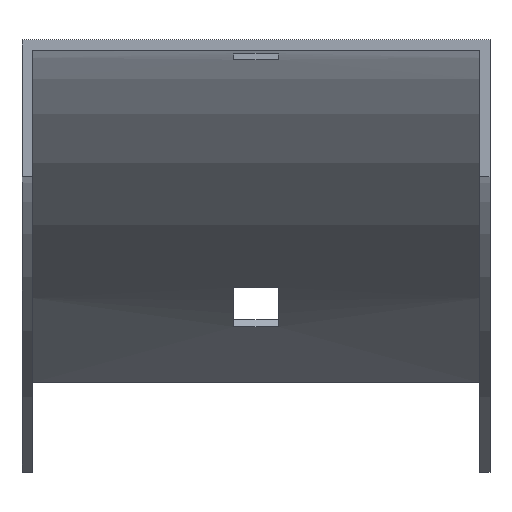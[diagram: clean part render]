
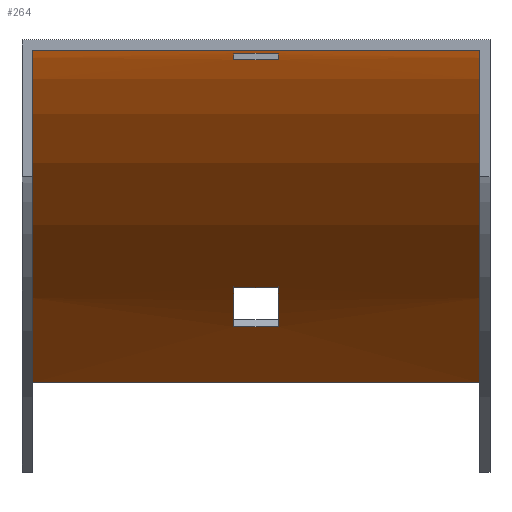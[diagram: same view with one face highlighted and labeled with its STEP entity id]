
A CAD part, top view. The second image highlights one B-rep face of the part: STEP entity #264.
In plain terms, the highlighted cylindrical face has radius 165.5 mm (diameter 331 mm), a partial arc.
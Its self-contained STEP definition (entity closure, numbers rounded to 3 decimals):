
#8 = CARTESIAN_POINT ( 'NONE',  ( -3.25, -167., 0. ) ) ;
#11 = CIRCLE ( 'NONE', #427, 165.5 ) ;
#27 = ORIENTED_EDGE ( 'NONE', *, *, #143, .F. ) ;
#38 = ORIENTED_EDGE ( 'NONE', *, *, #434, .T. ) ;
#51 = DIRECTION ( 'NONE',  ( -1., 0., 0. ) ) ;
#52 = CARTESIAN_POINT ( 'NONE',  ( -3.25, -41.797, -108.233 ) ) ;
#53 = CARTESIAN_POINT ( 'NONE',  ( 3.25, -41.797, -108.233 ) ) ;
#55 = EDGE_CURVE ( 'NONE', #141, #175, #67, .T. ) ;
#64 = CARTESIAN_POINT ( 'NONE',  ( -32.75, -167., 0. ) ) ;
#66 = EDGE_LOOP ( 'NONE', ( #27, #92, #38, #250 ) ) ;
#67 = CIRCLE ( 'NONE', #221, 165.5 ) ;
#78 = LINE ( 'NONE', #355, #91 ) ;
#79 = ORIENTED_EDGE ( 'NONE', *, *, #425, .T. ) ;
#80 = DIRECTION ( 'NONE',  ( -1., 0., 0. ) ) ;
#86 = EDGE_LOOP ( 'NONE', ( #531, #246, #321, #217 ) ) ;
#91 = VECTOR ( 'NONE', #455, 1000. ) ;
#92 = ORIENTED_EDGE ( 'NONE', *, *, #595, .F. ) ;
#94 = VECTOR ( 'NONE', #307, 1000. ) ;
#95 = EDGE_CURVE ( 'NONE', #544, #228, #301, .T. ) ;
#96 = CARTESIAN_POINT ( 'NONE',  ( -32.75, -1.5, 0. ) ) ;
#110 = DIRECTION ( 'NONE',  ( 0., 0., 1. ) ) ;
#114 = VERTEX_POINT ( 'NONE', #437 ) ;
#120 = CARTESIAN_POINT ( 'NONE',  ( -3.25, -1.936, -12. ) ) ;
#125 = LINE ( 'NONE', #365, #438 ) ;
#129 = CARTESIAN_POINT ( 'NONE',  ( -3.25, -167., 0. ) ) ;
#134 = CARTESIAN_POINT ( 'NONE',  ( 3.25, -36.071, -101.231 ) ) ;
#141 = VERTEX_POINT ( 'NONE', #422 ) ;
#142 = AXIS2_PLACEMENT_3D ( 'NONE', #509, #235, #227 ) ;
#143 = EDGE_CURVE ( 'NONE', #265, #419, #351, .T. ) ;
#151 = CARTESIAN_POINT ( 'NONE',  ( 3.25, -167., 0. ) ) ;
#163 = DIRECTION ( 'NONE',  ( 1., 0., 0. ) ) ;
#165 = DIRECTION ( 'NONE',  ( 1., 0., 0. ) ) ;
#173 = FACE_BOUND ( 'NONE', #341, .T. ) ;
#175 = VERTEX_POINT ( 'NONE', #347 ) ;
#179 = CARTESIAN_POINT ( 'NONE',  ( 34.25, -167., 0. ) ) ;
#186 = CARTESIAN_POINT ( 'NONE',  ( 3.25, -167., 0. ) ) ;
#188 = DIRECTION ( 'NONE',  ( 0., 0., 1. ) ) ;
#189 = DIRECTION ( 'NONE',  ( 1., 0., 0. ) ) ;
#200 = EDGE_CURVE ( 'NONE', #228, #141, #412, .T. ) ;
#213 = CARTESIAN_POINT ( 'NONE',  ( 34.25, -2.838, -21. ) ) ;
#217 = ORIENTED_EDGE ( 'NONE', *, *, #200, .F. ) ;
#221 = AXIS2_PLACEMENT_3D ( 'NONE', #151, #165, #484 ) ;
#227 = DIRECTION ( 'NONE',  ( 0., 0., 1. ) ) ;
#228 = VERTEX_POINT ( 'NONE', #553 ) ;
#235 = DIRECTION ( 'NONE',  ( 1., 0., 0. ) ) ;
#238 = VECTOR ( 'NONE', #80, 1000. ) ;
#246 = ORIENTED_EDGE ( 'NONE', *, *, #279, .F. ) ;
#250 = ORIENTED_EDGE ( 'NONE', *, *, #258, .T. ) ;
#252 = VERTEX_POINT ( 'NONE', #134 ) ;
#253 = CARTESIAN_POINT ( 'NONE',  ( -32.75, -49.974, -117.026 ) ) ;
#258 = EDGE_CURVE ( 'NONE', #506, #419, #402, .T. ) ;
#263 = DIRECTION ( 'NONE',  ( -1., 0., 0. ) ) ;
#264 = ADVANCED_FACE ( 'NONE', ( #409, #502, #173 ), #495, .F. ) ;
#265 = VERTEX_POINT ( 'NONE', #253 ) ;
#266 = CARTESIAN_POINT ( 'NONE',  ( 32.75, -1.5, 0. ) ) ;
#273 = EDGE_CURVE ( 'NONE', #361, #386, #499, .T. ) ;
#274 = VECTOR ( 'NONE', #303, 1000. ) ;
#276 = CARTESIAN_POINT ( 'NONE',  ( 34.25, -36.071, -101.231 ) ) ;
#279 = EDGE_CURVE ( 'NONE', #175, #544, #125, .T. ) ;
#282 = AXIS2_PLACEMENT_3D ( 'NONE', #8, #51, #481 ) ;
#290 = AXIS2_PLACEMENT_3D ( 'NONE', #179, #263, #309 ) ;
#297 = CIRCLE ( 'NONE', #142, 165.5 ) ;
#298 = CARTESIAN_POINT ( 'NONE',  ( 32.75, -1.5, 0. ) ) ;
#301 = CIRCLE ( 'NONE', #282, 165.5 ) ;
#303 = DIRECTION ( 'NONE',  ( 1., 0., 0. ) ) ;
#307 = DIRECTION ( 'NONE',  ( -1., 0., 0. ) ) ;
#309 = DIRECTION ( 'NONE',  ( 0., 0., 1. ) ) ;
#314 = DIRECTION ( 'NONE',  ( 0., 0., -1. ) ) ;
#321 = ORIENTED_EDGE ( 'NONE', *, *, #55, .F. ) ;
#322 = DIRECTION ( 'NONE',  ( -1., 0., 0. ) ) ;
#325 = ORIENTED_EDGE ( 'NONE', *, *, #442, .T. ) ;
#330 = VERTEX_POINT ( 'NONE', #466 ) ;
#341 = EDGE_LOOP ( 'NONE', ( #408, #364, #325, #79 ) ) ;
#347 = CARTESIAN_POINT ( 'NONE',  ( 3.25, -1.936, -12. ) ) ;
#351 = CIRCLE ( 'NONE', #604, 165.5 ) ;
#355 = CARTESIAN_POINT ( 'NONE',  ( 32.75, -49.974, -117.026 ) ) ;
#361 = VERTEX_POINT ( 'NONE', #53 ) ;
#364 = ORIENTED_EDGE ( 'NONE', *, *, #562, .T. ) ;
#365 = CARTESIAN_POINT ( 'NONE',  ( 34.25, -1.936, -12. ) ) ;
#386 = VERTEX_POINT ( 'NONE', #52 ) ;
#400 = CIRCLE ( 'NONE', #550, 165.5 ) ;
#402 = LINE ( 'NONE', #266, #94 ) ;
#408 = ORIENTED_EDGE ( 'NONE', *, *, #273, .T. ) ;
#409 = FACE_BOUND ( 'NONE', #86, .T. ) ;
#412 = LINE ( 'NONE', #213, #274 ) ;
#419 = VERTEX_POINT ( 'NONE', #96 ) ;
#422 = CARTESIAN_POINT ( 'NONE',  ( 3.25, -2.838, -21. ) ) ;
#425 = EDGE_CURVE ( 'NONE', #252, #361, #400, .T. ) ;
#427 = AXIS2_PLACEMENT_3D ( 'NONE', #129, #163, #314 ) ;
#434 = EDGE_CURVE ( 'NONE', #114, #506, #297, .T. ) ;
#437 = CARTESIAN_POINT ( 'NONE',  ( 32.75, -49.974, -117.026 ) ) ;
#438 = VECTOR ( 'NONE', #444, 1000. ) ;
#442 = EDGE_CURVE ( 'NONE', #330, #252, #565, .T. ) ;
#444 = DIRECTION ( 'NONE',  ( -1., 0., 0. ) ) ;
#452 = CARTESIAN_POINT ( 'NONE',  ( 34.25, -41.797, -108.233 ) ) ;
#454 = VECTOR ( 'NONE', #570, 1000. ) ;
#455 = DIRECTION ( 'NONE',  ( -1., 0., 0. ) ) ;
#466 = CARTESIAN_POINT ( 'NONE',  ( -3.25, -36.071, -101.231 ) ) ;
#481 = DIRECTION ( 'NONE',  ( 0., 0., 1. ) ) ;
#484 = DIRECTION ( 'NONE',  ( 0., 0., -1. ) ) ;
#495 = CYLINDRICAL_SURFACE ( 'NONE', #290, 165.5 ) ;
#499 = LINE ( 'NONE', #452, #238 ) ;
#502 = FACE_OUTER_BOUND ( 'NONE', #66, .T. ) ;
#506 = VERTEX_POINT ( 'NONE', #298 ) ;
#509 = CARTESIAN_POINT ( 'NONE',  ( 32.75, -167., 0. ) ) ;
#531 = ORIENTED_EDGE ( 'NONE', *, *, #95, .F. ) ;
#544 = VERTEX_POINT ( 'NONE', #120 ) ;
#550 = AXIS2_PLACEMENT_3D ( 'NONE', #186, #322, #188 ) ;
#553 = CARTESIAN_POINT ( 'NONE',  ( -3.25, -2.838, -21. ) ) ;
#562 = EDGE_CURVE ( 'NONE', #386, #330, #11, .T. ) ;
#565 = LINE ( 'NONE', #276, #454 ) ;
#570 = DIRECTION ( 'NONE',  ( 1., 0., 0. ) ) ;
#595 = EDGE_CURVE ( 'NONE', #114, #265, #78, .T. ) ;
#604 = AXIS2_PLACEMENT_3D ( 'NONE', #64, #189, #110 ) ;
